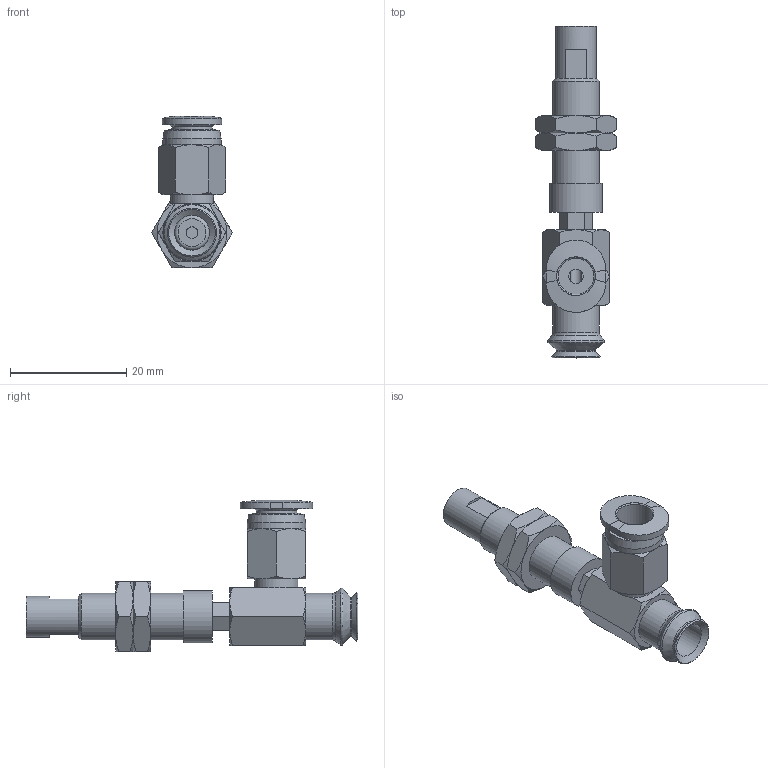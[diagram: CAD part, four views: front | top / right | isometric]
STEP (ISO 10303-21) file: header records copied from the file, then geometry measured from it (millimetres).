
FILE_DESCRIPTION(('STEP AP203'),'1');
FILE_NAME('-O.stp','2025-04-24T05:52:59',(' '),(' '),'Spatial InterOp 3D',' ',' ');
FILE_SCHEMA(('CONFIG_CONTROL_DESIGN'));
Length unit declared in the file: millimetre
Products named in the file (7): BNABPJYH-8-3-※-O; CONNECTOR_H-8-3; NAPJH-8-3-NUT; NAPJTH-8-3-FBODY; NAPJTH-8-3-MBODY; BPJG-8-※; PC-C_06-M5
Assembly tree (7 placements, depth 2):
  BNABPJYH-8-3-※-O
    CONNECTOR_H-8-3
    NAPJH-8-3-NUT  x2
    NAPJTH-8-3-FBODY
    NAPJTH-8-3-MBODY
    BPJG-8-※
    PC-C_06-M5
Bounding box: 13.86 x 57 x 25.98 mm (x, y, z)
Volume: 3338.6 mm3; surface area: 5184.5 mm2
Topology: 6 solids, 9 shells, 187 faces, 398 edges, 241 vertices
Faces by surface type: plane 78, cone 68, cylinder 23, torus 11, bspline 4, revolution 3
Full cylindrical faces by diameter (mm): 2 x1, 4 x4, 4.134 x2, 5 x2, 6 x2, 7 x2, 7.188 x2, 7.4 x1, 8 x2, 8.2 x1, 9 x1, 10 x1
Entity records: 4896 total; most frequent: CARTESIAN_POINT 1365, DIRECTION 653, ORIENTED_EDGE 580, EDGE_CURVE 292, AXIS2_PLACEMENT_3D 278, EDGE_LOOP 238, VERTEX_POINT 204, FACE_OUTER_BOUND 135
